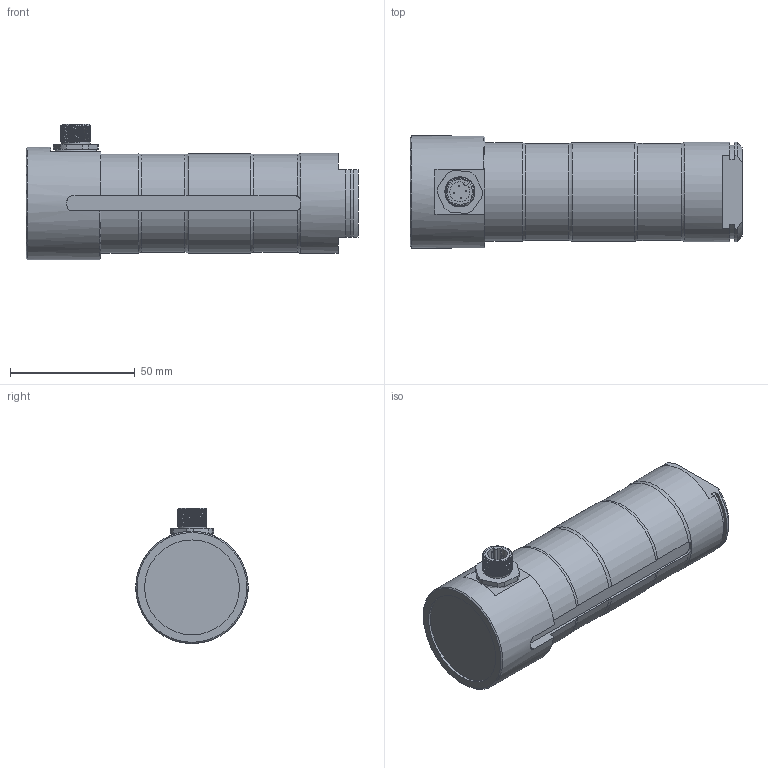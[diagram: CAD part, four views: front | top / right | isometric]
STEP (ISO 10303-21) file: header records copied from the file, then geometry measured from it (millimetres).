
FILE_DESCRIPTION(/* description */ ('Alibre Inc.'),/* implementation_level */ '2;1');
FILE_NAME(/* name */ 'export0',/* time_stamp */ '2017-04-05T08:51:22+02:00',/* author */ (''),/* organization */ (''),/* preprocessor_version */ 'ST-DEVELOPER v14',/* originating_system */ 'Alibre',/* authorisation */ '');
FILE_SCHEMA (('CONFIG_CONTROL_DESIGN'));
Length unit declared in the file: centimetre
Products named in the file (6): ID_1; ID_2; ID_3; ID_4
Bounding box: 133 x 45 x 54.12 mm (x, y, z)
Volume: 169360.7 mm3; surface area: 24983.7 mm2
Topology: 8 solids, 8 shells, 166 faces, 387 edges, 243 vertices
Faces by surface type: plane 67, cylinder 58, bspline 23, cone 9, torus 9
Full cylindrical faces by diameter (mm): 0.5 x8, 8 x2, 10 x4, 11.5 x1, 13 x1, 14.376 x1, 38 x1, 40 x1, 45 x1
Entity records: 14944 total; most frequent: CARTESIAN_POINT 11310, ORIENTED_EDGE 710, DIRECTION 446, EDGE_CURVE 350, VERTEX_POINT 233, FACE_BOUND 206, EDGE_LOOP 205, AXIS2_PLACEMENT_3D 192
